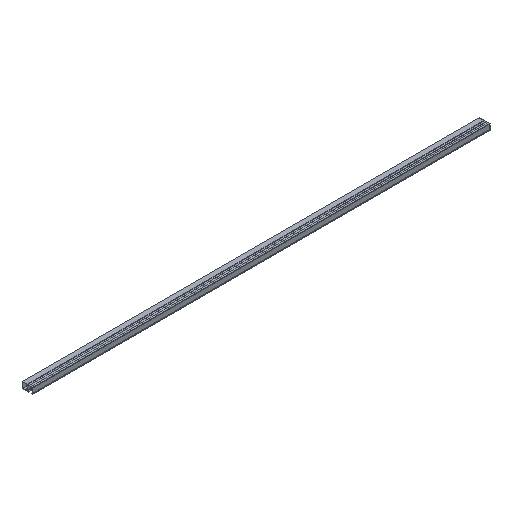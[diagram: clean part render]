
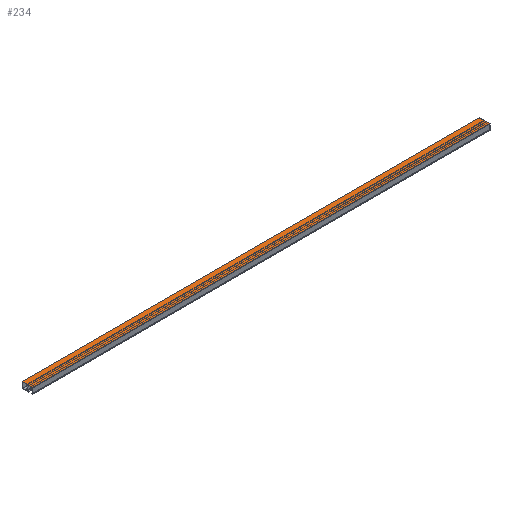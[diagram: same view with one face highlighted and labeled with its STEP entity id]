
A CAD part, isometric view. The second image highlights one B-rep face of the part: STEP entity #234.
In plain terms, the highlighted planar face has unit normal (0, 0, 1).
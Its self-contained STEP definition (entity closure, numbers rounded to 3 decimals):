
#234=ADVANCED_FACE('',(#492),#493,.T.);
#492=FACE_OUTER_BOUND('',#769,.T.);
#493=PLANE('',#770);
#769=EDGE_LOOP('',(#1393,#1394,#1395,#1396));
#770=AXIS2_PLACEMENT_3D('',#1397,#1398,#1399);
#1393=ORIENTED_EDGE('',*,*,#1926,.T.);
#1394=ORIENTED_EDGE('',*,*,#1924,.T.);
#1395=ORIENTED_EDGE('',*,*,#1927,.F.);
#1396=ORIENTED_EDGE('',*,*,#1928,.F.);
#1397=CARTESIAN_POINT('',(2500.0,-15.5,0.));
#1398=DIRECTION('',(0.0,0.,1.0));
#1399=DIRECTION('',(0.0,1.0,0.));
#1924=EDGE_CURVE('',#2370,#2372,#2374,.T.);
#1926=EDGE_CURVE('',#2376,#2370,#2377,.T.);
#1927=EDGE_CURVE('',#2378,#2372,#2379,.T.);
#1928=EDGE_CURVE('',#2376,#2378,#2380,.T.);
#2370=VERTEX_POINT('',#2993);
#2372=VERTEX_POINT('',#2996);
#2374=LINE('',#2999,#3000);
#2376=VERTEX_POINT('',#3002);
#2377=LINE('',#3003,#3004);
#2378=VERTEX_POINT('',#3005);
#2379=LINE('',#3006,#3007);
#2380=LINE('',#3008,#3009);
#2993=CARTESIAN_POINT('',(2500.0,42.,0.));
#2996=CARTESIAN_POINT('',(0.0,42.,0.));
#2999=CARTESIAN_POINT('',(2500.0,42.,0.));
#3000=VECTOR('',#3467,1.0);
#3002=CARTESIAN_POINT('',(2500.0,-15.5,0.));
#3003=CARTESIAN_POINT('',(2500.0,-15.5,0.));
#3004=VECTOR('',#3468,1.0);
#3005=CARTESIAN_POINT('',(0.0,-15.5,0.));
#3006=CARTESIAN_POINT('',(0.0,-15.5,0.));
#3007=VECTOR('',#3469,1.0);
#3008=CARTESIAN_POINT('',(2500.0,-15.5,0.));
#3009=VECTOR('',#3470,1.0);
#3467=DIRECTION('',(-1.0,0.0,0.0));
#3468=DIRECTION('',(0.0,1.0,0.));
#3469=DIRECTION('',(0.0,1.0,0.));
#3470=DIRECTION('',(-1.0,0.0,0.0));
